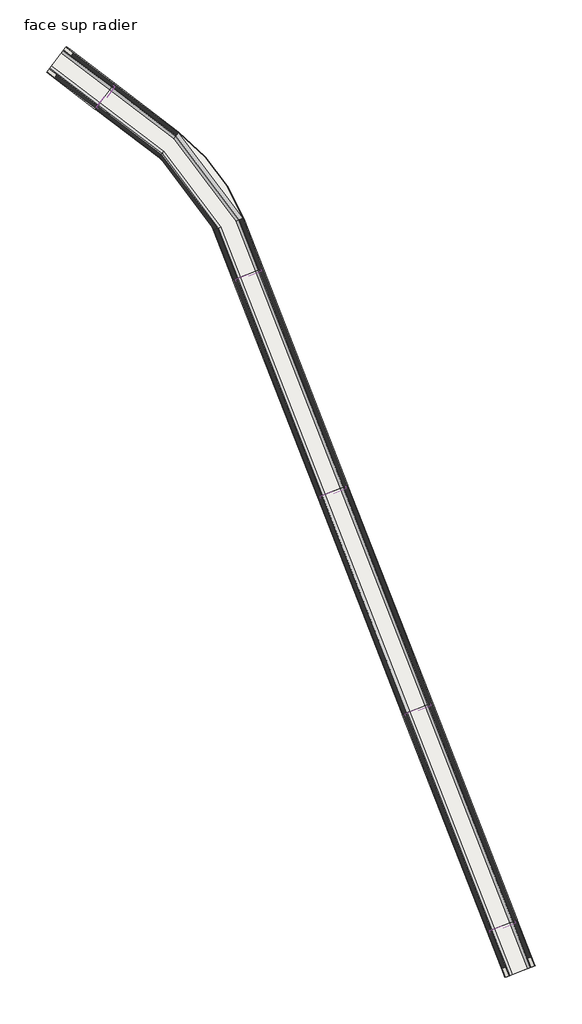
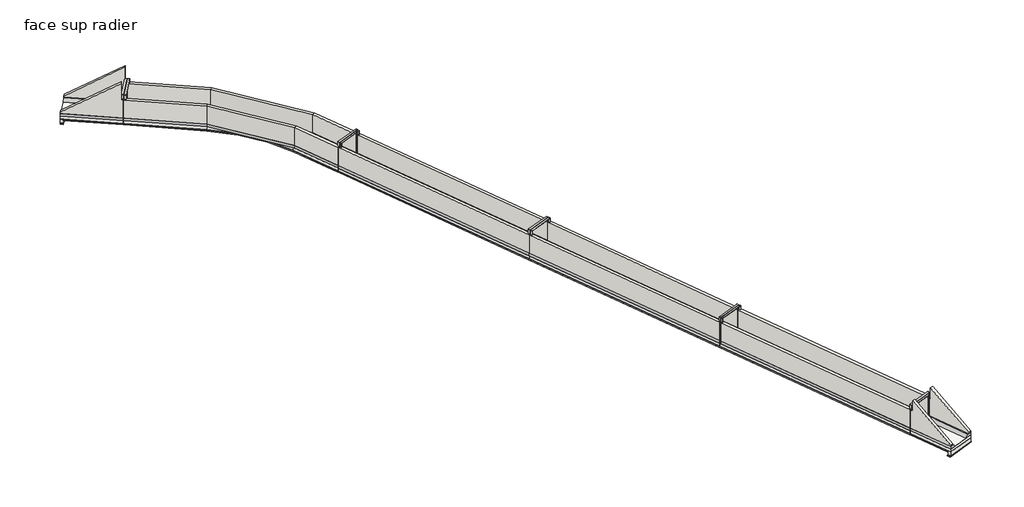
# One storey: 36 proxies, 18 walls, 14 slabs.
"""IFC4 building model written with IfcOpenShell, lengths in millimetres."""

from ifc_helpers import new_model, si_unit, point, frame, frame_2d, origin, place, context, project, spatial, polyline, circle_curve, trimmed, segment, composite_curve, outline, extrude, transform, mapped, element, save
from components import generic_models_72a42a46, generic_models_eec6437c, generic_models_388254e4, generic_models_2f8197d4, generic_models_ab7b40e1, generic_models_5d4a5f9c, generic_models_71e85ab6, generic_models_5fc66349, generic_models_194e7ed4, generic_models_1dc0fe7d, generic_models_83797bec, generic_models_2be4eea7, generic_models_2d9994c1, generic_models_ca7175ef, generic_models_fb369cac, generic_models_430e72b2

model = new_model("IFC4")

# Units and contexts
model_context = context("Model", 3, world=origin())
ifc_project = project(units=[si_unit("LENGTHUNIT", "METRE", prefix="MILLI")], contexts=[model_context])

# Site, building, storey
site = spatial("IfcSite", under=ifc_project)
building = spatial("IfcBuilding", under=site)
storey = spatial("IfcBuildingStorey", under=building, Name="face sup radier", Elevation=0.0)

# Proxies
placement = place(None, origin())
generic_models_shape = generic_models_72a42a46(model_context)
element("IfcBuildingElementProxy", 1, Name="Gousset radier bord droit : Gousset radier bord droit", ObjectType="Gousset radier bord droit : Gousset radier bord droit", at=placement, inside=storey, context=model_context, shape_type="MappedRepresentation", body=[
    mapped(generic_models_shape, transform((19414.9670882, -24114.5685686, 0.0), x_axis=(0.36332202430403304, -0.9316636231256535, 0.0), y_axis=(0.9316636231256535, 0.36332202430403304, 0.0), z_axis=(0.0, 0.0, 1.0))),
])
element("IfcBuildingElementProxy", 2, Name="Gousset radier bord droit : Gousset radier bord droit", ObjectType="Gousset radier bord droit : Gousset radier bord droit", at=placement, inside=storey, context=model_context, shape_type="MappedRepresentation", body=[
    mapped(generic_models_shape, transform((28686.9451499, -47890.6242347, 0.0), x_axis=(0.3633220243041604, -0.9316636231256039, 0.0), y_axis=(0.9316636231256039, 0.3633220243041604, 0.0), z_axis=(0.0, 0.0, 1.0))),
])
element("IfcBuildingElementProxy", 3, Name="Gousset radier bord droit : Gousset radier bord droit", ObjectType="Gousset radier bord droit : Gousset radier bord droit", at=placement, inside=storey, context=model_context, shape_type="MappedRepresentation", body=[
    mapped(generic_models_shape, transform((37958.9232117, -71666.6799007, 0.0), x_axis=(0.3633220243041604, -0.9316636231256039, 0.0), y_axis=(0.9316636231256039, 0.3633220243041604, 0.0), z_axis=(0.0, 0.0, 1.0))),
])
generic_models_2_shape = generic_models_eec6437c(model_context)
element("IfcBuildingElementProxy", 4, Name="Gousset radier bord droit : Gousset radier bord droit", ObjectType="Gousset radier bord droit : Gousset radier bord droit", at=placement, inside=storey, context=model_context, shape_type="MappedRepresentation", body=[
    mapped(generic_models_2_shape, transform((22537.7386278, -22896.7774592, 0.0), x_axis=(0.3633220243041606, -0.9316636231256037, 0.0), y_axis=(0.9316636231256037, 0.3633220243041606, 0.0), z_axis=(0.0, 0.0, 1.0))),
])
element("IfcBuildingElementProxy", 5, Name="Gousset radier bord droit : Gousset radier bord droit", ObjectType="Gousset radier bord droit : Gousset radier bord droit", at=placement, inside=storey, context=model_context, shape_type="MappedRepresentation", body=[
    mapped(generic_models_2_shape, transform((31809.7166896, -46672.8331252, 0.0), x_axis=(0.3633220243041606, -0.9316636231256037, 0.0), y_axis=(0.9316636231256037, 0.3633220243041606, 0.0), z_axis=(0.0, 0.0, 1.0))),
])
element("IfcBuildingElementProxy", 6, Name="Gousset radier bord droit : Gousset radier bord droit", ObjectType="Gousset radier bord droit : Gousset radier bord droit", at=placement, inside=storey, context=model_context, shape_type="MappedRepresentation", body=[
    mapped(generic_models_2_shape, transform((41081.6947513, -70448.8887913, 0.0), x_axis=(0.3633220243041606, -0.9316636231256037, 0.0), y_axis=(0.9316636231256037, 0.3633220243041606, 0.0), z_axis=(0.0, 0.0, 1.0))),
])
generic_models_3_shape = generic_models_388254e4(model_context)
element("IfcBuildingElementProxy", 7, Name="Gousset radier bord droit : Gousset radier bord droit", ObjectType="Gousset radier bord droit : Gousset radier bord droit", at=placement, inside=storey, context=model_context, shape_type="MappedRepresentation", body=[
    mapped(generic_models_3_shape, transform((6328.9008819, -2708.8061228, 0.0), x_axis=(0.7959685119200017, -0.6053380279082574, 0.0), y_axis=(0.6053380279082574, 0.7959685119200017, 0.0), z_axis=(0.0, 0.0, 1.0))),
])
generic_models_4_shape = generic_models_2f8197d4(model_context)
element("IfcBuildingElementProxy", 8, Name="Gousset radier bord droit : Gousset radier bord droit", ObjectType="Gousset radier bord droit : Gousset radier bord droit", at=placement, inside=storey, context=model_context, shape_type="MappedRepresentation", body=[
    mapped(generic_models_4_shape, transform((4301.0184884, -5375.3006377, 0.0), x_axis=(0.7959685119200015, -0.6053380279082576, 0.0), y_axis=(0.6053380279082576, 0.7959685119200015, 0.0), z_axis=(0.0, 0.0, 1.0))),
])
generic_models_5_shape = generic_models_ab7b40e1(model_context)
element("IfcBuildingElementProxy", 9, Name="Gousset radier bord droit : Gousset radier bord droit", ObjectType="Gousset radier bord droit : Gousset radier bord droit", at=placement, inside=storey, context=model_context, shape_type="MappedRepresentation", body=[
    mapped(generic_models_5_shape, transform((19407.6136611, -24095.7122372, 0.0), x_axis=(-0.363322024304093, 0.9316636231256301, 0.0), y_axis=(-0.9316636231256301, -0.363322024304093, 0.0), z_axis=(0.0, 0.0, 1.0))),
])
generic_models_6_shape = generic_models_5d4a5f9c(model_context)
element("IfcBuildingElementProxy", 10, Name="Gousset radier bord droit : Gousset radier bord droit", ObjectType="Gousset radier bord droit : Gousset radier bord droit", at=placement, inside=storey, context=model_context, shape_type="MappedRepresentation", body=[
    mapped(generic_models_6_shape, transform((22530.3852007, -22877.9211277, 0.0), x_axis=(-0.36332202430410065, 0.9316636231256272, 0.0), y_axis=(-0.9316636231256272, -0.36332202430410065, 0.0), z_axis=(0.0, 0.0, 1.0))),
])
generic_models_7_shape = generic_models_71e85ab6(model_context)
element("IfcBuildingElementProxy", 11, Name="Gousset radier courbe ext ou int : Gousset radier courbe - coté extérieur", ObjectType="Gousset radier courbe ext ou int : Gousset radier courbe - coté extérieur", at=placement, inside=storey, context=model_context, shape_type="MappedRepresentation", body=[
    mapped(generic_models_7_shape, transform((201.0759638, -25276.0628916, 0.0), x_axis=(0.9316908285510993, 0.36325225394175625, 0.0), y_axis=(-0.36325225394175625, 0.9316908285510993, 0.0), z_axis=(0.0, 0.0, 1.0))),
])
generic_models_8_shape = generic_models_5fc66349(model_context)
element("IfcBuildingElementProxy", 12, Name="Gousset radier courbe ext ou int : Gousset radier courbe - côté intérieur", ObjectType="Gousset radier courbe ext ou int : Gousset radier courbe - côté intérieur", at=placement, inside=storey, context=model_context, shape_type="MappedRepresentation", body=[
    mapped(generic_models_8_shape, transform((199.3165197, -25275.8995014, 0.0), x_axis=(0.9317220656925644, 0.3631721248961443, 0.0), y_axis=(-0.3631721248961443, 0.9317220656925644, 0.0), z_axis=(0.0, 0.0, 1.0))),
])
generic_models_9_shape = generic_models_194e7ed4(model_context)
element("IfcBuildingElementProxy", 13, Name="Gousset radier bord droit : Gousset radier bord droit", ObjectType="Gousset radier bord droit : Gousset radier bord droit", at=placement, inside=storey, context=model_context, shape_type="MappedRepresentation", body=[
    mapped(generic_models_9_shape, transform((1013.9411967, 1333.2472575, 0.0), x_axis=(0.7959685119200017, -0.6053380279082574, 0.0), y_axis=(0.6053380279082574, 0.7959685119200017, 0.0), z_axis=(0.0, 0.0, 1.0))),
])
generic_models_10_shape = generic_models_1dc0fe7d(model_context)
element("IfcBuildingElementProxy", 14, Name="Gousset radier bord droit : Gousset radier bord droit", ObjectType="Gousset radier bord droit : Gousset radier bord droit", at=placement, inside=storey, context=model_context, shape_type="MappedRepresentation", body=[
    mapped(generic_models_10_shape, transform((-1013.9411967, -1333.2472575, 0.0), x_axis=(0.7959685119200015, -0.6053380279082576, 0.0), y_axis=(0.6053380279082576, 0.7959685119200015, 0.0), z_axis=(0.0, 0.0, 1.0))),
])
generic_models_11_shape = generic_models_83797bec(model_context)
element("IfcBuildingElementProxy", 15, Name="Gousset radier bord droit : Gousset radier bord droit", ObjectType="Gousset radier bord droit : Gousset radier bord droit", at=placement, inside=storey, context=model_context, shape_type="MappedRepresentation", body=[
    mapped(generic_models_11_shape, transform((47231.7567971, -95442.4205908, 0.0), x_axis=(0.36332202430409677, -0.9316636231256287, 0.0), y_axis=(0.9316636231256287, 0.36332202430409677, 0.0), z_axis=(0.0, 0.0, 1.0))),
])
generic_models_12_shape = generic_models_2be4eea7(model_context)
element("IfcBuildingElementProxy", 16, Name="Gousset radier bord droit : Gousset radier bord droit", ObjectType="Gousset radier bord droit : Gousset radier bord droit", at=placement, inside=storey, context=model_context, shape_type="MappedRepresentation", body=[
    mapped(generic_models_12_shape, transform((50352.8299177, -94225.2918159, 0.0), x_axis=(0.36332202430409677, -0.9316636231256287, 0.0), y_axis=(0.9316636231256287, 0.36332202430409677, 0.0), z_axis=(0.0, 0.0, 1.0))),
])
generic_models_13_shape = generic_models_2d9994c1(model_context)
element("IfcBuildingElementProxy", 17, Name="joint water stop - selon ligne plane : JWS - ép 20 mm - largeur 500 mm", ObjectType="joint water stop - selon ligne plane : JWS - ép 20 mm - largeur 500 mm", at=placement, inside=storey, context=model_context, shape_type="MappedRepresentation", body=[
    mapped(generic_models_13_shape, transform((22370.5528007, -22950.9846556, 3175.0), x_axis=(0.0, 0.0, -1.0), y_axis=(0.9316636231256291, 0.36332202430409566, 0.0), z_axis=(0.36332202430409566, -0.9316636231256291, 0.0))),
])
element("IfcBuildingElementProxy", 18, Name="joint water stop - selon ligne plane : JWS - ép 20 mm - largeur 500 mm", ObjectType="joint water stop - selon ligne plane : JWS - ép 20 mm - largeur 500 mm", at=placement, inside=storey, context=model_context, shape_type="MappedRepresentation", body=[
    mapped(generic_models_13_shape, transform((19582.3545388, -24038.3018069, -175.0), x_axis=(0.0, 0.0, 1.0), y_axis=(-0.9316636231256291, -0.36332202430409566, 0.0), z_axis=(0.36332202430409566, -0.9316636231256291, 0.0))),
])
element("IfcBuildingElementProxy", 19, Name="joint water stop - selon ligne plane : JWS - ép 20 mm - largeur 500 mm", ObjectType="joint water stop - selon ligne plane : JWS - ép 20 mm - largeur 500 mm", at=placement, inside=storey, context=model_context, shape_type="MappedRepresentation", body=[
    mapped(generic_models_13_shape, transform((31642.5308624, -46727.0403217, 3175.0), x_axis=(0.0, 0.0, -1.0), y_axis=(0.9316636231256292, 0.3633220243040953, 0.0), z_axis=(0.3633220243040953, -0.9316636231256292, 0.0))),
])
element("IfcBuildingElementProxy", 20, Name="joint water stop - selon ligne plane : JWS - ép 20 mm - largeur 500 mm", ObjectType="joint water stop - selon ligne plane : JWS - ép 20 mm - largeur 500 mm", at=placement, inside=storey, context=model_context, shape_type="MappedRepresentation", body=[
    mapped(generic_models_13_shape, transform((28854.3326006, -47814.357473, -175.0), x_axis=(0.0, 0.0, 1.0), y_axis=(-0.9316636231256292, -0.3633220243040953, 0.0), z_axis=(0.3633220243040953, -0.9316636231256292, 0.0))),
])
element("IfcBuildingElementProxy", 21, Name="joint water stop - selon ligne plane : JWS - ép 20 mm - largeur 500 mm", ObjectType="joint water stop - selon ligne plane : JWS - ép 20 mm - largeur 500 mm", at=placement, inside=storey, context=model_context, shape_type="MappedRepresentation", body=[
    mapped(generic_models_13_shape, transform((40914.9334104, -70502.9304503, 3175.0), x_axis=(0.0, 0.0, -1.0), y_axis=(0.9316636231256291, 0.36332202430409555, 0.0), z_axis=(0.36332202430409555, -0.9316636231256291, 0.0))),
])
element("IfcBuildingElementProxy", 22, Name="joint water stop - selon ligne plane : JWS - ép 20 mm - largeur 500 mm", ObjectType="joint water stop - selon ligne plane : JWS - ép 20 mm - largeur 500 mm", at=placement, inside=storey, context=model_context, shape_type="MappedRepresentation", body=[
    mapped(generic_models_13_shape, transform((38126.3106623, -71590.413139, -175.0), x_axis=(0.0, 0.0, 1.0), y_axis=(-0.9316636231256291, -0.36332202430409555, 0.0), z_axis=(0.36332202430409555, -0.9316636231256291, 0.0))),
])
element("IfcBuildingElementProxy", 23, Name="joint water stop - selon ligne plane : JWS - ép 20 mm - largeur 500 mm", ObjectType="joint water stop - selon ligne plane : JWS - ép 20 mm - largeur 500 mm", at=placement, inside=storey, context=model_context, shape_type="MappedRepresentation", body=[
    mapped(generic_models_13_shape, transform((50187.0047729, -94279.2253667, 3175.0), x_axis=(0.0, 0.0, -1.0), y_axis=(0.931663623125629, 0.36332202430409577, 0.0), z_axis=(0.36332202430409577, -0.931663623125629, 0.0))),
])
element("IfcBuildingElementProxy", 24, Name="joint water stop - selon ligne plane : JWS - ép 20 mm - largeur 500 mm", ObjectType="joint water stop - selon ligne plane : JWS - ép 20 mm - largeur 500 mm", at=placement, inside=storey, context=model_context, shape_type="MappedRepresentation", body=[
    mapped(generic_models_13_shape, transform((47398.3820248, -95366.7080554, -175.0), x_axis=(0.0, 0.0, 1.0), y_axis=(-0.931663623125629, -0.36332202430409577, 0.0), z_axis=(0.36332202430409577, -0.931663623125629, 0.0))),
])
element("IfcBuildingElementProxy", 25, Name="joint water stop - selon ligne plane : JWS - ép 20 mm - largeur 500 mm", ObjectType="joint water stop - selon ligne plane : JWS - ép 20 mm - largeur 500 mm", at=placement, inside=storey, context=model_context, shape_type="MappedRepresentation", body=[
    mapped(generic_models_13_shape, transform((6215.0070419, -2842.0472321, 3175.0), x_axis=(0.0, 0.0, -1.0), y_axis=(0.6053380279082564, 0.7959685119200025, 0.0), z_axis=(0.7959685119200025, -0.6053380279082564, 0.0))),
])
element("IfcBuildingElementProxy", 26, Name="joint water stop - selon ligne plane : JWS - ép 20 mm - largeur 500 mm", ObjectType="joint water stop - selon ligne plane : JWS - ép 20 mm - largeur 500 mm", at=placement, inside=storey, context=model_context, shape_type="MappedRepresentation", body=[
    mapped(generic_models_13_shape, transform((4398.9929581, -5229.9527679, -175.0), x_axis=(0.0, 0.0, 1.0), y_axis=(-0.6053380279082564, -0.7959685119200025, 0.0), z_axis=(0.7959685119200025, -0.6053380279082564, 0.0))),
])
generic_models_14_shape = generic_models_ca7175ef(model_context)
element("IfcBuildingElementProxy", 27, Name="joint water stop - selon ligne plane : JWS - ép 20 mm - largeur 500 mm", ObjectType="joint water stop - selon ligne plane : JWS - ép 20 mm - largeur 500 mm", at=placement, inside=storey, context=model_context, shape_type="MappedRepresentation", body=[
    mapped(generic_models_14_shape, transform((19582.3545388, -24038.3018069, 3175.0), x_axis=(0.9316636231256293, 0.3633220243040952, 0.0), y_axis=(0.0, 0.0, 1.0000000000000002), z_axis=(0.36332202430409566, -0.9316636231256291, 0.0))),
])
element("IfcBuildingElementProxy", 28, Name="joint water stop - selon ligne plane : JWS - ép 20 mm - largeur 500 mm", ObjectType="joint water stop - selon ligne plane : JWS - ép 20 mm - largeur 500 mm", at=placement, inside=storey, context=model_context, shape_type="MappedRepresentation", body=[
    mapped(generic_models_14_shape, transform((22370.5528007, -22950.9846556, -175.0), x_axis=(-0.931663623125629, -0.3633220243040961, 0.0), y_axis=(0.0, 0.0, -1.0000000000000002), z_axis=(0.36332202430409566, -0.9316636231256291, 0.0))),
])
element("IfcBuildingElementProxy", 29, Name="joint water stop - selon ligne plane : JWS - ép 20 mm - largeur 500 mm", ObjectType="joint water stop - selon ligne plane : JWS - ép 20 mm - largeur 500 mm", at=placement, inside=storey, context=model_context, shape_type="MappedRepresentation", body=[
    mapped(generic_models_14_shape, transform((28854.3326006, -47814.357473, 3175.0), x_axis=(0.9316636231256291, 0.36332202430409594, 0.0), y_axis=(0.0, 0.0, 1.0000000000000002), z_axis=(0.3633220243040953, -0.9316636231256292, 0.0))),
])
element("IfcBuildingElementProxy", 30, Name="joint water stop - selon ligne plane : JWS - ép 20 mm - largeur 500 mm", ObjectType="joint water stop - selon ligne plane : JWS - ép 20 mm - largeur 500 mm", at=placement, inside=storey, context=model_context, shape_type="MappedRepresentation", body=[
    mapped(generic_models_14_shape, transform((31642.5308624, -46727.0403217, -175.0), x_axis=(-0.9316636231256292, -0.3633220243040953, 0.0), y_axis=(0.0, 0.0, -1.0000000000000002), z_axis=(0.3633220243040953, -0.9316636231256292, 0.0))),
])
generic_models_15_shape = generic_models_fb369cac(model_context)
element("IfcBuildingElementProxy", 31, Name="joint water stop - selon ligne plane : JWS - ép 20 mm - largeur 500 mm", ObjectType="joint water stop - selon ligne plane : JWS - ép 20 mm - largeur 500 mm", at=placement, inside=storey, context=model_context, shape_type="MappedRepresentation", body=[
    mapped(generic_models_15_shape, transform((38126.3106623, -71590.413139, 3175.0), x_axis=(0.9316636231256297, 0.36332202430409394, 0.0), y_axis=(0.0, 0.0, 1.0), z_axis=(0.36332202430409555, -0.9316636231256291, 0.0))),
])
element("IfcBuildingElementProxy", 32, Name="joint water stop - selon ligne plane : JWS - ép 20 mm - largeur 500 mm", ObjectType="joint water stop - selon ligne plane : JWS - ép 20 mm - largeur 500 mm", at=placement, inside=storey, context=model_context, shape_type="MappedRepresentation", body=[
    mapped(generic_models_15_shape, transform((40914.9334104, -70502.9304503, -175.0), x_axis=(-0.9316636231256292, -0.36332202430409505, 0.0), y_axis=(0.0, 0.0, -1.0), z_axis=(0.36332202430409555, -0.9316636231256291, 0.0))),
])
element("IfcBuildingElementProxy", 33, Name="joint water stop - selon ligne plane : JWS - ép 20 mm - largeur 500 mm", ObjectType="joint water stop - selon ligne plane : JWS - ép 20 mm - largeur 500 mm", at=placement, inside=storey, context=model_context, shape_type="MappedRepresentation", body=[
    mapped(generic_models_15_shape, transform((47398.3820248, -95366.7080554, 3175.0), x_axis=(0.9316636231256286, 0.36332202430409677, 0.0), y_axis=(0.0, 0.0, 1.0), z_axis=(0.36332202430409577, -0.931663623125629, 0.0))),
])
element("IfcBuildingElementProxy", 34, Name="joint water stop - selon ligne plane : JWS - ép 20 mm - largeur 500 mm", ObjectType="joint water stop - selon ligne plane : JWS - ép 20 mm - largeur 500 mm", at=placement, inside=storey, context=model_context, shape_type="MappedRepresentation", body=[
    mapped(generic_models_15_shape, transform((50187.0047729, -94279.2253667, -175.0), x_axis=(-0.9316636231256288, -0.3633220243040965, 0.0), y_axis=(0.0, 0.0, -1.0), z_axis=(0.36332202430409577, -0.931663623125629, 0.0))),
])
generic_models_16_shape = generic_models_430e72b2(model_context)
element("IfcBuildingElementProxy", 35, Name="joint water stop - selon ligne plane : JWS - ép 20 mm - largeur 500 mm", ObjectType="joint water stop - selon ligne plane : JWS - ép 20 mm - largeur 500 mm", at=placement, inside=storey, context=model_context, shape_type="MappedRepresentation", body=[
    mapped(generic_models_16_shape, transform((4398.9929581, -5229.9527679, 3175.0), x_axis=(0.6053380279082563, 0.7959685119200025, 0.0), y_axis=(0.0, 0.0, 1.0), z_axis=(0.7959685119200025, -0.6053380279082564, 0.0))),
])
element("IfcBuildingElementProxy", 36, Name="joint water stop - selon ligne plane : JWS - ép 20 mm - largeur 500 mm", ObjectType="joint water stop - selon ligne plane : JWS - ép 20 mm - largeur 500 mm", at=placement, inside=storey, context=model_context, shape_type="MappedRepresentation", body=[
    mapped(generic_models_16_shape, transform((6215.0070419, -2842.0472321, -175.0), x_axis=(-0.6053380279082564, -0.7959685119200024, 0.0), y_axis=(0.0, 0.0, -1.0), z_axis=(0.7959685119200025, -0.6053380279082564, 0.0))),
])

# Slabs
element("IfcSlab", 37, ObjectType="Dalle en béton - 350 mm", at=placement, inside=storey, context=model_context, shape_type="SweptSolid", body=[
    extrude(outline(polyline([(22536.8894183, -22897.1086265), (31801.6010385, -46654.5310175), (28679.6787084, -47871.9909596), (19414.9670882, -24114.5685686), (22536.8894183, -22897.1086265)])), frame((0.0, 0.0, -350.0), z_axis=(0.0, 0.0, 1.0), x_axis=(1.0, 0.0, 0.0)), (0.0, 0.0, 1.0), 350.0),
])
element("IfcSlab", 38, ObjectType="Dalle en béton - 350 mm", at=placement, inside=storey, context=model_context, shape_type="SweptSolid", body=[
    extrude(outline(polyline([(31808.86748, -46673.1642925), (41073.5791003, -70430.5866835), (37951.6567702, -71648.0466256), (28686.9451499, -47890.6242347), (31808.86748, -46673.1642925)])), frame((0.0, 0.0, -350.0), z_axis=(0.0, 0.0, 1.0), x_axis=(1.0, 0.0, 0.0)), (0.0, 0.0, 1.0), 350.0),
])
element("IfcSlab", 39, ObjectType="Béton de propreté 100 mm", at=placement, inside=storey, context=model_context, shape_type="SweptSolid", body=[
    extrude(outline(polyline([(22630.9049902, -22860.4452567), (31894.7674009, -46618.198815), (28586.5123461, -47908.323162), (19321.8007258, -24150.900771), (22630.9049902, -22860.4452567)])), frame((0.0, 0.0, -450.0), z_axis=(0.0, 0.0, 1.0), x_axis=(1.0, 0.0, 0.0)), (0.0, 0.0, 1.0), 100.0),
])
element("IfcSlab", 40, ObjectType="Béton de propreté 100 mm", at=placement, inside=storey, context=model_context, shape_type="SweptSolid", body=[
    extrude(outline(polyline([(31902.8830519, -46636.5009228), (41166.7454626, -70394.254481), (37858.4904078, -71684.3788281), (28593.7787876, -47926.9564371), (31902.8830519, -46636.5009228)])), frame((0.0, 0.0, -450.0), z_axis=(0.0, 0.0, 1.0), x_axis=(1.0, 0.0, 0.0)), (0.0, 0.0, 1.0), 100.0),
])
element("IfcSlab", 41, ObjectType="Dalle en béton - 350 mm", at=placement, inside=storey, context=model_context, shape_type="SweptSolid", body=[
    extrude(outline(composite_curve([segment(trimmed(circle_curve(frame_2d((199.7617032, -25280.6604611)), 21676.6863321), [point((13321.4842591, -8026.700698))], [point((20394.3224536, -17402.9421086))], False, "CARTESIAN"), True, "CONTINUOUS"), segment(polyline([(20394.3224536, -17402.9421086), (22529.5359912, -22878.252295), (19407.6136611, -24095.7122372), (17206.8076618, -18452.2038508)]), True, "CONTINUOUS"), segment(trimmed(circle_curve(frame_2d((199.7617032, -25280.6604611)), 18326.6863321), [point((17206.8076618, -18452.2038508))], [point((11293.6018656, -10693.1952129))], True, "CARTESIAN"), True, "CONTINUOUS"), segment(polyline([(11293.6018656, -10693.1952129), (4301.0184884, -5375.3006377), (6328.9008819, -2708.8061228), (13321.4842591, -8026.700698)]), True, "CONTINUOUS")], self_intersect=False)), frame((0.0, 0.0, -350.0), z_axis=(0.0, 0.0, 1.0), x_axis=(1.0, 0.0, 0.0)), (0.0, 0.0, 1.0), 350.0),
])
element("IfcSlab", 42, ObjectType="Béton de propreté 100 mm", at=placement, inside=storey, context=model_context, shape_type="SweptSolid", body=[
    extrude(outline(composite_curve([segment(polyline([(4249.3035036, -5461.6043367), (6386.1812958, -2626.7349605), (13374.2389273, -7943.0541841)]), True, "CONTINUOUS"), segment(trimmed(circle_curve(frame_2d((222.2637876, -25269.207986)), 21752.4724029), [point((13374.2389273, -7943.0541841))], [point((20488.2510384, -17366.0556789))], False, "CARTESIAN"), True, "CONTINUOUS"), segment(polyline([(20488.2510384, -17366.0556789), (22623.551563, -22841.5889253), (19314.4472985, -24132.0444397), (17179.5761262, -18656.4008068)]), True, "CONTINUOUS"), segment(trimmed(circle_curve(frame_2d((195.3771408, -25286.3122702)), 18232.3542414), [point((17179.5761262, -18656.4008068))], [point((11234.5698788, -10775.8000504))], True, "CARTESIAN"), True, "CONTINUOUS"), segment(polyline([(11234.5698788, -10775.8000504), (4249.3035036, -5461.6043367)]), True, "CONTINUOUS")], self_intersect=False)), frame((0.0, 0.0, -450.0), z_axis=(0.0, 0.0, 1.0), x_axis=(1.0, 0.0, 0.0)), (0.0, 0.0, 1.0), 100.0),
])
element("IfcSlab", 43, ObjectType="Dalle en béton - 350 mm", at=placement, inside=storey, context=model_context, shape_type="SweptSolid", body=[
    extrude(outline(polyline([(6312.9815116, -2696.6993623), (4285.0991181, -5363.1938772), (-1013.9411967, -1333.2472575), (1013.9411967, 1333.2472575), (6312.9815116, -2696.6993623)])), frame((0.0, 0.0, -350.0), z_axis=(0.0, 0.0, 1.0), x_axis=(1.0, 0.0, 0.0)), (0.0, 0.0, 1.0), 350.0),
])
element("IfcSlab", 44, ObjectType="Béton de propreté 100 mm", at=placement, inside=storey, context=model_context, shape_type="SweptSolid", body=[
    extrude(outline(polyline([(1353.0639787, 1200.9757989), (6373.5153144, -2617.1025111), (4224.5653153, -5442.7907284), (-795.8860204, -1624.7124184), (1353.0639787, 1200.9757989)])), frame((0.0, 0.0, -450.0), z_axis=(0.0, 0.0, 1.0), x_axis=(1.0, 0.0, 0.0)), (0.0, 0.0, 1.0), 100.0),
])
element("IfcSlab", 45, ObjectType="Béton de propreté 100 mm", at=placement, inside=storey, context=model_context, shape_type="SweptSolid", body=[
    extrude(outline(polyline([(-1074.4749995, -1412.8441087), (1074.4749995, 1412.8441087), (1353.0639787, 1200.9757989), (-795.8860204, -1624.7124184), (-1074.4749995, -1412.8441087)])), frame((0.0, 0.0, -950.0), z_axis=(0.0, 0.0, 1.0), x_axis=(1.0, 0.0, 0.0)), (0.0, 0.0, 1.0), 100.0),
])
element("IfcSlab", 46, ObjectType="Dalle en béton - 350 mm", at=placement, inside=storey, context=model_context, shape_type="SweptSolid", body=[
    extrude(outline(polyline([(50352.8299177, -94225.2918159), (52296.8727693, -99210.3846138), (49174.9504392, -100427.8445559), (47230.9075876, -95442.7517581), (50352.8299177, -94225.2918159)])), frame((0.0, 0.0, -350.0), z_axis=(0.0, 0.0, 1.0), x_axis=(1.0, 0.0, 0.0)), (0.0, 0.0, 1.0), 350.0),
])
element("IfcSlab", 47, ObjectType="Béton de propreté 100 mm", at=placement, inside=storey, context=model_context, shape_type="SweptSolid", body=[
    extrude(outline(polyline([(48954.6213684, -100138.0944902), (47137.7412253, -95479.0839605), (50446.8454895, -94188.6284462), (52263.7256326, -98847.6389759), (48954.6213684, -100138.0944902)])), frame((0.0, 0.0, -450.0), z_axis=(0.0, 0.0, 1.0), x_axis=(1.0, 0.0, 0.0)), (0.0, 0.0, 1.0), 100.0),
])
element("IfcSlab", 48, ObjectType="Béton de propreté 100 mm", at=placement, inside=storey, context=model_context, shape_type="SweptSolid", body=[
    extrude(outline(polyline([(52262.8764231, -98847.9701432), (52390.0391316, -99174.0524113), (49081.7840769, -100464.1767583), (48954.6213684, -100138.0944902), (52262.8764231, -98847.9701432)])), frame((0.0, 0.0, -950.0), z_axis=(0.0, 0.0, 1.0), x_axis=(1.0, 0.0, 0.0)), (0.0, 0.0, 1.0), 100.0),
])
element("IfcSlab", 49, ObjectType="Dalle en béton - 350 mm", at=placement, inside=storey, context=model_context, shape_type="SweptSolid", body=[
    extrude(outline(polyline([(41080.8455418, -70449.2199586), (50345.557162, -94206.6423495), (47223.6348319, -95424.1022917), (37958.9232117, -71666.6799007), (41080.8455418, -70449.2199586)])), frame((0.0, 0.0, -350.0), z_axis=(0.0, 0.0, 1.0), x_axis=(1.0, 0.0, 0.0)), (0.0, 0.0, 1.0), 350.0),
])
element("IfcSlab", 50, ObjectType="Béton de propreté 100 mm", at=placement, inside=storey, context=model_context, shape_type="SweptSolid", body=[
    extrude(outline(polyline([(41174.8611137, -70412.5565888), (50438.7235244, -94170.3101471), (47130.4684696, -95460.4344941), (37865.7568493, -71703.0121031), (41174.8611137, -70412.5565888)])), frame((0.0, 0.0, -450.0), z_axis=(0.0, 0.0, 1.0), x_axis=(1.0, 0.0, 0.0)), (0.0, 0.0, 1.0), 100.0),
])

# Walls
element("IfcWall", 51, ObjectType="Voile BA 350 mm", at=placement, inside=storey, context=model_context, shape_type="SweptSolid", body=[
    extrude(outline(polyline([(31476.36798, -46781.3625587), (22211.6563597, -23023.9401677), (22537.7386278, -22896.7774592), (31802.4502481, -46654.1998502), (31476.36798, -46781.3625587)])), frame((0.0, 0.0, 350.0), z_axis=(0.0, 0.0, 1.0), x_axis=(1.0, 0.0, 0.0)), (0.0, 0.0, 1.0), 2300.0),
])
element("IfcWall", 52, ObjectType="Voile BA 350 mm", at=placement, inside=storey, context=model_context, shape_type="SweptSolid", body=[
    extrude(outline(polyline([(19741.0493563, -23987.4058601), (29005.7609765, -47744.8282511), (28679.6787084, -47871.9909596), (19414.9670882, -24114.5685686), (19741.0493563, -23987.4058601)])), frame((0.0, 0.0, 350.0), z_axis=(0.0, 0.0, 1.0), x_axis=(1.0, 0.0, 0.0)), (0.0, 0.0, 1.0), 2300.0),
])
element("IfcWall", 53, ObjectType="Voile BA 350 mm", at=placement, inside=storey, context=model_context, shape_type="SweptSolid", body=[
    extrude(outline(polyline([(40748.3460417, -70557.4182247), (31483.6344215, -46799.9958337), (31809.7166896, -46672.8331252), (41074.4283098, -70430.2555162), (40748.3460417, -70557.4182247)])), frame((0.0, 0.0, 350.0), z_axis=(0.0, 0.0, 1.0), x_axis=(1.0, 0.0, 0.0)), (0.0, 0.0, 1.0), 2300.0),
])
element("IfcWall", 54, ObjectType="Voile BA 350 mm", at=placement, inside=storey, context=model_context, shape_type="SweptSolid", body=[
    extrude(outline(polyline([(29013.027418, -47763.4615261), (38277.7390383, -71520.8839171), (37951.6567702, -71648.0466256), (28686.9451499, -47890.6242347), (29013.027418, -47763.4615261)])), frame((0.0, 0.0, 350.0), z_axis=(0.0, 0.0, 1.0), x_axis=(1.0, 0.0, 0.0)), (0.0, 0.0, 1.0), 2300.0),
])
element("IfcWall", 55, ObjectType="Voile BA 350 mm", at=placement, inside=storey, context=model_context, shape_type="SweptSolid", body=[
    extrude(outline(polyline([(13109.6159493, -8305.2896772), (6117.0325721, -2987.395102), (6328.9008819, -2708.8061228), (13321.4842591, -8026.700698), (13109.6159493, -8305.2896772)])), frame((0.0, 0.0, 350.0), z_axis=(0.0, 0.0, 1.0), x_axis=(1.0, 0.0, 0.0)), (0.0, 0.0, 1.0), 2300.0),
])
element("IfcWall", 56, ObjectType="Voile BA 350 mm", at=placement, inside=storey, context=model_context, shape_type="SweptSolid", body=[
    extrude(outline(polyline([(22204.2824777, -23005.0313714), (20071.5914373, -17533.5891393), (20397.6941603, -17406.4788956), (22530.3852007, -22877.9211277), (22204.2824777, -23005.0313714)])), frame((0.0, 0.0, 350.0), z_axis=(0.0, 0.0, 1.0), x_axis=(1.0, 0.0, 0.0)), (0.0, 0.0, 1.0), 2300.0),
])
element("IfcWall", 57, ObjectType="Voile BA 350 mm", at=placement, inside=storey, context=model_context, shape_type="SweptSolid", body=[
    extrude(outline(polyline([(17601.3431851, -18497.9734667), (19733.7163976, -23968.6020282), (19407.6136611, -24095.7122372), (17275.2404486, -18625.0836757), (17601.3431851, -18497.9734667)])), frame((0.0, 0.0, 350.0), z_axis=(0.0, 0.0, 1.0), x_axis=(1.0, 0.0, 0.0)), (0.0, 0.0, 1.0), 2300.0),
])
element("IfcWall", 58, ObjectType="Voile BA 350 mm", at=placement, inside=storey, context=model_context, shape_type="SweptSolid", body=[
    extrude(outline(composite_curve([segment(polyline([(20395.9609855, -17407.1437823), (20069.865491, -17534.2725692)]), True, "CONTINUOUS"), segment(trimmed(circle_curve(frame_2d((199.7617032, -25280.6604611)), 21326.6863321), [point((20069.865491, -17534.2725692))], [point((13109.6159493, -8305.2896772))], True, "CARTESIAN"), True, "CONTINUOUS"), segment(polyline([(13109.6159493, -8305.2896772), (13321.4842591, -8026.700698)]), True, "CONTINUOUS"), segment(trimmed(circle_curve(frame_2d((199.7617032, -25280.6604611)), 21676.6863321), [point((13321.4842591, -8026.700698))], [point((20395.9609855, -17407.1437823))], False, "CARTESIAN"), True, "CONTINUOUS")], self_intersect=False)), frame((0.0, 0.0, 350.0), z_axis=(0.0, 0.0, 1.0), x_axis=(1.0, 0.0, 0.0)), (0.0, 0.0, 1.0), 2300.0),
])
element("IfcWall", 59, ObjectType="Voile BA 350 mm", at=placement, inside=storey, context=model_context, shape_type="SweptSolid", body=[
    extrude(outline(composite_curve([segment(polyline([(11293.6013568, -10693.1948259), (11505.4706842, -10414.6066207)]), True, "CONTINUOUS"), segment(trimmed(circle_curve(frame_2d((199.422677, -25280.9945985)), 18677.1575205), [point((11505.4706842, -10414.6066207))], [point((17601.3431851, -18497.9734667))], False, "CARTESIAN"), True, "CONTINUOUS"), segment(polyline([(17601.3431851, -18497.9734667), (17275.2404486, -18625.0836757)]), True, "CONTINUOUS"), segment(trimmed(circle_curve(frame_2d((199.422677, -25280.9945985)), 18327.1575205), [point((17275.2404486, -18625.0836757))], [point((11293.6013568, -10693.1948259))], True, "CARTESIAN"), True, "CONTINUOUS")], self_intersect=False)), frame((0.0, 0.0, 350.0), z_axis=(0.0, 0.0, 1.0), x_axis=(1.0, 0.0, 0.0)), (0.0, 0.0, 1.0), 2300.0),
])
element("IfcWall", 60, ObjectType="Voile BA 350 mm", at=placement, inside=storey, context=model_context, shape_type="SweptSolid", body=[
    extrude(outline(polyline([(4512.8867981, -5096.7116586), (11505.4701754, -10414.6062337), (11293.6018656, -10693.1952129), (4301.0184884, -5375.3006377), (4512.8867981, -5096.7116586)])), frame((0.0, 0.0, 350.0), z_axis=(0.0, 0.0, 1.0), x_axis=(1.0, 0.0, 0.0)), (0.0, 0.0, 1.0), 2300.0),
])
element("IfcWall", 61, ObjectType="Voile BA 350 mm", at=placement, inside=storey, context=model_context, shape_type="SweptSolid", body=[
    extrude(outline(polyline([(0.0, 0.0), (0.0, -2300.0), (-250.0, -2300.0), (-250.0, -4360.0), (-6657.3491733, -150.0), (-6657.3491733, 0.0), (0.0, 0.0)])), frame((4285.0991181, -5363.1938772, 350.0), z_axis=(0.6053380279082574, 0.7959685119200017, 0.0), x_axis=(0.7959685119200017, -0.6053380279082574, 0.0)), (0.0, 0.0, 1.0), 350.0),
])
element("IfcWall", 62, ObjectType="Voile BA 350 mm", at=placement, inside=storey, context=model_context, shape_type="SweptSolid", body=[
    extrude(outline(polyline([(0.0, 0.0), (0.0, -2300.0), (-250.0, -2300.0), (-250.0, -4360.0), (-6657.3491734, -150.0), (-6657.3491734, 0.0), (0.0, 0.0)])), frame((6101.1132019, -2975.2883414, 350.0), z_axis=(0.6053380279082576, 0.7959685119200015, 0.0), x_axis=(0.7959685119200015, -0.6053380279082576, 0.0)), (0.0, 0.0, 1.0), 350.0),
])
element("IfcWall", 63, ObjectType="Voile BA 350 mm", at=placement, inside=storey, context=model_context, shape_type="SweptSolid", body=[
    extrude(outline(polyline([(1292.5301759, 1121.3789477), (-735.3522176, -1545.1155672), (-1013.9411967, -1333.2472575), (1013.9411967, 1333.2472575), (1292.5301759, 1121.3789477)])), frame((0.0, 0.0, -850.0), z_axis=(0.0, 0.0, 1.0), x_axis=(1.0, 0.0, 0.0)), (0.0, 0.0, 1.0), 500.0),
])
element("IfcWall", 64, ObjectType="Voile BA 350 mm", at=placement, inside=storey, context=model_context, shape_type="SweptSolid", body=[
    extrude(outline(polyline([(0.0, 0.0), (0.0, -150.0), (-5100.7432018, -3600.0), (-5100.7432018, -2300.0), (-5350.7432018, -2300.0), (-5350.7432018, 0.0), (0.0, 0.0)])), frame((49174.9504392, -100427.8445559, 350.0), z_axis=(0.9316636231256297, 0.36332202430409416, 0.0), x_axis=(0.36332202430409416, -0.9316636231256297, 0.0)), (0.0, 0.0, 1.0), 350.0),
])
element("IfcWall", 65, ObjectType="Voile BA 350 mm", at=placement, inside=storey, context=model_context, shape_type="SweptSolid", body=[
    extrude(outline(polyline([(0.0, 0.0), (0.0, -149.9800441), (-5100.7413753, -3599.9788087), (-5100.7413753, -2300.0), (-5350.7432019, -2300.0), (-5350.7432019, 0.0), (0.0, 0.0)])), frame((51971.6397107, -99337.216155, 350.0), z_axis=(0.9316636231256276, 0.36332202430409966, 0.0), x_axis=(0.36332202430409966, -0.9316636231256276, 0.0)), (0.0, 0.0, 1.0), 350.0),
])
element("IfcWall", 66, ObjectType="Voile BA 350 mm", at=placement, inside=storey, context=model_context, shape_type="SweptSolid", body=[
    extrude(outline(polyline([(49047.7877307, -100101.7622878), (52169.7100608, -98884.3023457), (52296.8727693, -99210.3846138), (49174.9504392, -100427.8445559), (49047.7877307, -100101.7622878)])), frame((0.0, 0.0, -850.0), z_axis=(0.0, 0.0, 1.0), x_axis=(1.0, 0.0, 0.0)), (0.0, 0.0, 1.0), 500.0),
])
element("IfcWall", 67, ObjectType="Voile BA 350 mm", at=placement, inside=storey, context=model_context, shape_type="SweptSolid", body=[
    extrude(outline(polyline([(50020.3241035, -94333.4738907), (40755.6124832, -70576.0514998), (41081.6947513, -70448.8887913), (50346.4063716, -94206.3111822), (50020.3241035, -94333.4738907)])), frame((0.0, 0.0, 350.0), z_axis=(0.0, 0.0, 1.0), x_axis=(1.0, 0.0, 0.0)), (0.0, 0.0, 1.0), 2300.0),
])
element("IfcWall", 68, ObjectType="Voile BA 350 mm", at=placement, inside=storey, context=model_context, shape_type="SweptSolid", body=[
    extrude(outline(polyline([(38285.0054798, -71539.5171922), (47549.7171, -95296.9395832), (47223.6348319, -95424.1022917), (37958.9232117, -71666.6799007), (38285.0054798, -71539.5171922)])), frame((0.0, 0.0, 350.0), z_axis=(0.0, 0.0, 1.0), x_axis=(1.0, 0.0, 0.0)), (0.0, 0.0, 1.0), 2300.0),
])

save(model, "model.ifc")
